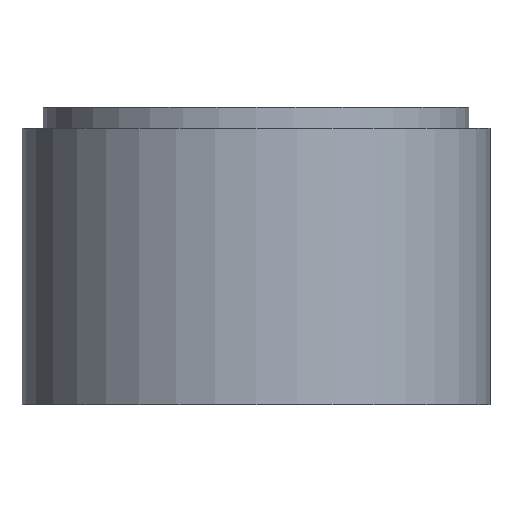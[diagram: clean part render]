
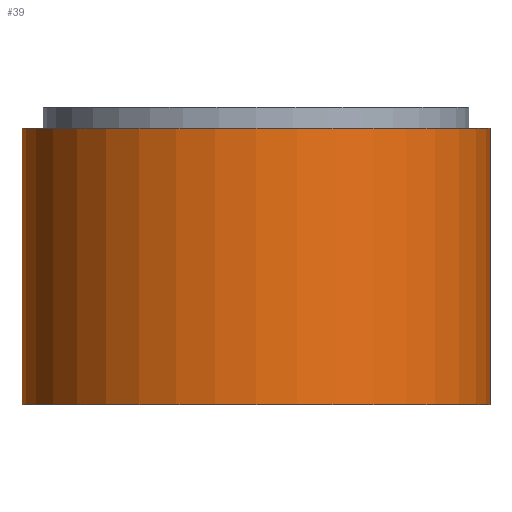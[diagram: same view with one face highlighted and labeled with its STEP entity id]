
A CAD part, front view. The second image highlights one B-rep face of the part: STEP entity #39.
In plain terms, the highlighted cylindrical face has radius 11 mm (diameter 22 mm), a full revolution.
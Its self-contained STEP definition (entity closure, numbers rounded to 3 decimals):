
#39 = ADVANCED_FACE('',(#40),#67,.T.);
#40 = FACE_BOUND('',#41,.T.);
#41 = EDGE_LOOP('',(#42,#51,#59,#66));
#42 = ORIENTED_EDGE('',*,*,#43,.F.);
#43 = EDGE_CURVE('',#44,#44,#46,.T.);
#44 = VERTEX_POINT('',#45);
#45 = CARTESIAN_POINT('',(11.,0.,6.5));
#46 = CIRCLE('',#47,11.);
#47 = AXIS2_PLACEMENT_3D('',#48,#49,#50);
#48 = CARTESIAN_POINT('',(0.,0.,6.5));
#49 = DIRECTION('',(0.,0.,1.));
#50 = DIRECTION('',(1.,0.,-0.));
#51 = ORIENTED_EDGE('',*,*,#52,.F.);
#52 = EDGE_CURVE('',#53,#44,#55,.T.);
#53 = VERTEX_POINT('',#54);
#54 = CARTESIAN_POINT('',(11.,0.,-6.5));
#55 = LINE('',#56,#57);
#56 = CARTESIAN_POINT('',(11.,0.,-6.5));
#57 = VECTOR('',#58,1.);
#58 = DIRECTION('',(0.,0.,1.));
#59 = ORIENTED_EDGE('',*,*,#60,.T.);
#60 = EDGE_CURVE('',#53,#53,#61,.T.);
#61 = CIRCLE('',#62,11.);
#62 = AXIS2_PLACEMENT_3D('',#63,#64,#65);
#63 = CARTESIAN_POINT('',(0.,0.,-6.5));
#64 = DIRECTION('',(0.,0.,1.));
#65 = DIRECTION('',(1.,0.,-0.));
#66 = ORIENTED_EDGE('',*,*,#52,.T.);
#67 = CYLINDRICAL_SURFACE('',#68,11.);
#68 = AXIS2_PLACEMENT_3D('',#69,#70,#71);
#69 = CARTESIAN_POINT('',(0.,0.,-6.5));
#70 = DIRECTION('',(0.,0.,1.));
#71 = DIRECTION('',(1.,0.,-0.));
